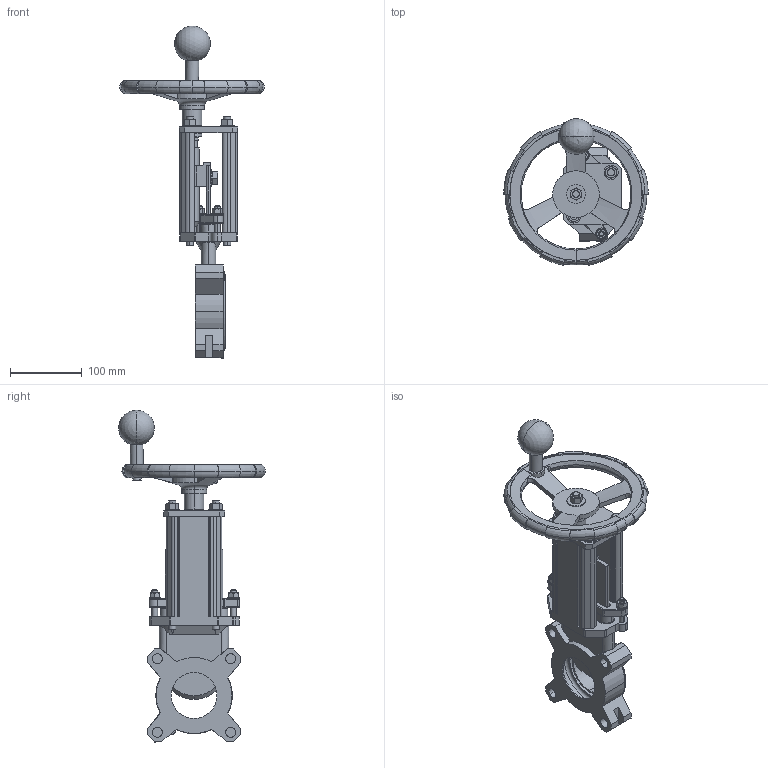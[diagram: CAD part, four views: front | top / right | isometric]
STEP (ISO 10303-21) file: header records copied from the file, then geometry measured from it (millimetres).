
FILE_DESCRIPTION(('STEP AP203'),'1');
FILE_NAME('G:/KONSTRUK/3-d block för CD/MV VALVE/HAND WHEEL/65/MV65-PN10-HW.stp','2013-03-15T11:50:56',(' '),(' '),'Spatial InterOp 3D',' ',' ');
FILE_SCHEMA(('CONFIG_CONTROL_DESIGN'));
Length unit declared in the file: millimetre
Products named in the file (1): 1
Bounding box: 202 x 204.78 x 463.99 mm (x, y, z)
Volume: 1109718.6 mm3; surface area: 368617.7 mm2
Topology: 1 solids, 6 shells, 977 faces, 2428 edges, 1524 vertices
Faces by surface type: plane 347, cylinder 317, cone 199, torus 94, bspline 18, sphere 2
Entity records: 33956 total; most frequent: CARTESIAN_POINT 10405, DIRECTION 5136, ORIENTED_EDGE 4840, EDGE_CURVE 2420, AXIS2_PLACEMENT_3D 2089, VERTEX_POINT 1524, CIRCLE 1112, EDGE_LOOP 1076
